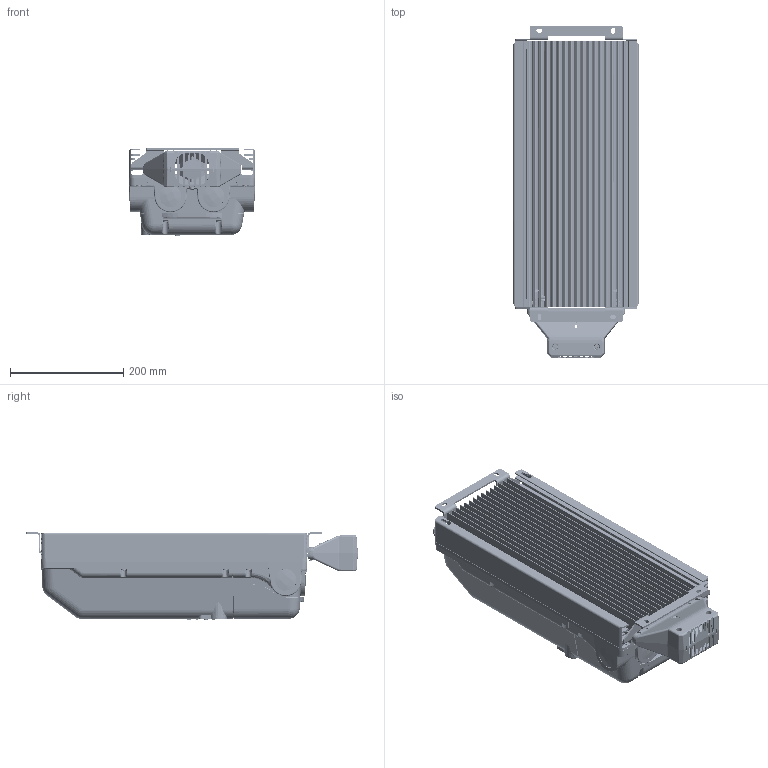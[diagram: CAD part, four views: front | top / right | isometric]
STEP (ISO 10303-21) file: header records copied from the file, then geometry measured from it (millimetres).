
FILE_DESCRIPTION (( 'STEP AP214' ), '1' );
FILE_NAME ('Shell-FMUltra.STEP', '2017-02-13T21:10:05', ( '' ), ( '' ), 'SwSTEP 2.0', 'SolidWorks 2015', '' );
FILE_SCHEMA (( 'AUTOMOTIVE_DESIGN' ));
Length unit declared in the file: inch
Products named in the file (19): Shell-WiringCover_Production; Shell-TopCoverAssy; 631-0039-01-00; Shell-Bulkhead; Shell-TopCover_DEFAULT; Shell-Heatsink_Machined; Shell-FMUltra; 336-0071-01-00; Shell-FanAssy; 604-0008-01-00 M4 KEP NUT; 606-0103-01-00_90317A532; 604-0016-01-00_90923A216; 303-0128-01-00; 606-0086-01-00_DEFAULT; 336-0072-01-00_Mods; 632-0011-01-00; Shell-Screwhead_PreviewCfg; 471-0005-01-00; Shell-WiringComp_DEFAULT
Assembly tree (45 placements, depth 3):
  Shell-FMUltra
    Shell-Heatsink_Machined
    Shell-TopCoverAssy
      Shell-TopCover_DEFAULT
      Shell-Bulkhead
      631-0039-01-00  x4
    Shell-WiringCover_Production
    Shell-WiringComp_DEFAULT
    471-0005-01-00
    Shell-Screwhead_PreviewCfg  x14
    632-0011-01-00  x4
    Shell-FanAssy
      336-0072-01-00_Mods  x2
      606-0086-01-00_DEFAULT  x3
      303-0128-01-00
      604-0016-01-00_90923A216  x2
      606-0103-01-00_90317A532  x2
      604-0008-01-00 M4 KEP NUT  x3
    336-0071-01-00  x2
Bounding box: 223.27 x 587.46 x 154.55 mm (x, y, z)
Volume: 2617640.7 mm3; surface area: 1652872.6 mm2
Topology: 48 solids, 48 shells, 5618 faces, 15174 edges, 9667 vertices
Faces by surface type: plane 2489, cylinder 1585, bspline 748, cone 557, torus 172, sphere 67
Entity records: 157590 total; most frequent: CARTESIAN_POINT 66148, ORIENTED_EDGE 19844, DIRECTION 16072, EDGE_CURVE 9922, VERTEX_POINT 6364, VECTOR 5584, LINE 5584, AXIS2_PLACEMENT_3D 5244
